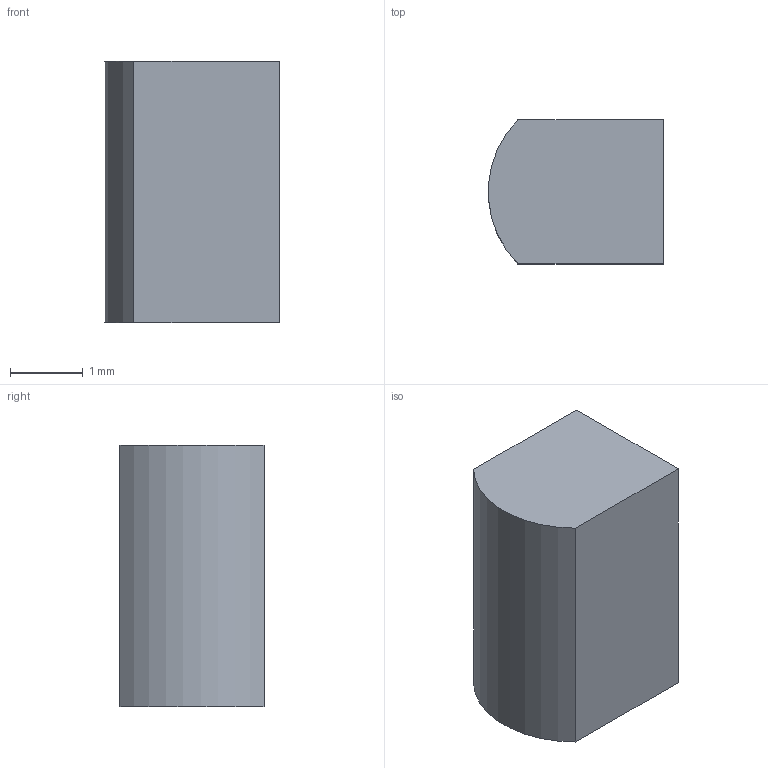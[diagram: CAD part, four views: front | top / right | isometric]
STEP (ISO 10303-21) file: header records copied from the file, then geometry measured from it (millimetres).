
FILE_DESCRIPTION(/* description */ ('STEP AP242 Edition 2','CAx-IF Rec.Pracs.---Representation and Presentation of Product Manufacturing Information (PMI)---4.0---2014-10-13','CAx-IF Rec.Pracs.---3D Tessellated Geometry---0.4---2014-09-14','2;1','CAx-IF Rec.Pracs.---User Defined Attributes---1.5---2016-08-15'),/* implementation_level */ '2;1');
FILE_NAME(/* name */ 'Final Build - Knob_1',/* time_stamp */ '2026-08-31T23:26:10Z',/* author */ (''),/* organization */ (''),/* preprocessor_version */ 'ST-DEVELOPER v20',/* originating_system */ 'ONSHAPE BY PTC INC, 1.220',/* authorisation */ ' ');
FILE_SCHEMA (('AP242_MANAGED_MODEL_BASED_3D_ENGINEERING_MIM_LF { 1 0 10303 442 3 1 4 }'));
Length unit declared in the file: metre
Products named in the file (1): Knob_1
Bounding box: 2.4 x 1.98 x 3.6 mm (x, y, z)
Volume: 16.3 mm3; surface area: 38.5 mm2
Topology: 1 solids, 1 shells, 6 faces, 12 edges, 8 vertices
Faces by surface type: plane 5, cylinder 1
Entity records: 180 total; most frequent: DIRECTION 28, CARTESIAN_POINT 27, ORIENTED_EDGE 24, EDGE_CURVE 12, LINE 10, VECTOR 10, AXIS2_PLACEMENT_3D 9, VERTEX_POINT 8
